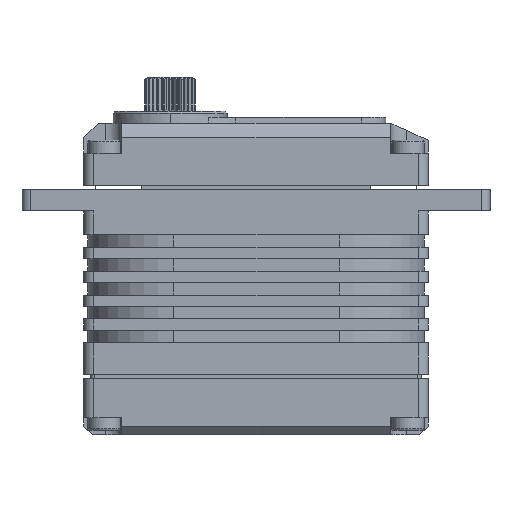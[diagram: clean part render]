
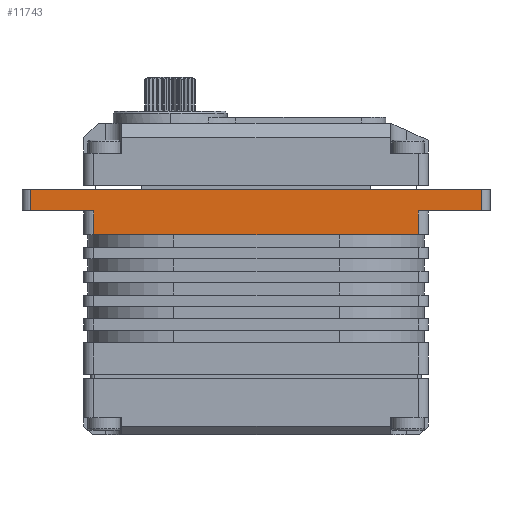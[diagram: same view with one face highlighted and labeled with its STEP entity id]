
A CAD part, front view. The second image highlights one B-rep face of the part: STEP entity #11743.
In plain terms, the highlighted planar face has unit normal (0, -1, 0).
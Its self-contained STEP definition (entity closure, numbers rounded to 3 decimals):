
#461 = EDGE_CURVE ( 'NONE', #27253, #23585, #17016, .T. ) ;
#1587 = VECTOR ( 'NONE', #9677, 1000. ) ;
#1687 = ORIENTED_EDGE ( 'NONE', *, *, #24361, .T. ) ;
#4114 = LINE ( 'NONE', #24383, #12506 ) ;
#4124 = ORIENTED_EDGE ( 'NONE', *, *, #8211, .T. ) ;
#4181 = LINE ( 'NONE', #10123, #26344 ) ;
#4681 = LINE ( 'NONE', #22576, #1587 ) ;
#5248 = CARTESIAN_POINT ( 'NONE',  ( -9.314, -17.158, 5.7 ) ) ;
#5252 = DIRECTION ( 'NONE',  ( 0., 0., -1. ) ) ;
#6075 = CARTESIAN_POINT ( 'NONE',  ( 36.236, -17.158, 8.5 ) ) ;
#6408 = ORIENTED_EDGE ( 'NONE', *, *, #12646, .T. ) ;
#7468 = VERTEX_POINT ( 'NONE', #9012 ) ;
#7659 = PLANE ( 'NONE',  #26599 ) ;
#7944 = VERTEX_POINT ( 'NONE', #9790 ) ;
#8106 = ORIENTED_EDGE ( 'NONE', *, *, #24947, .T. ) ;
#8211 = EDGE_CURVE ( 'NONE', #9892, #11613, #24564, .T. ) ;
#8218 = CARTESIAN_POINT ( 'NONE',  ( 36.236, -17.158, 11. ) ) ;
#9012 = CARTESIAN_POINT ( 'NONE',  ( -16.764, -17.158, 8.5 ) ) ;
#9677 = DIRECTION ( 'NONE',  ( 1., 0., 0. ) ) ;
#9684 = CARTESIAN_POINT ( 'NONE',  ( 36.236, -17.158, 5.7 ) ) ;
#9790 = CARTESIAN_POINT ( 'NONE',  ( -16.764, -17.158, 11. ) ) ;
#9892 = VERTEX_POINT ( 'NONE', #27029 ) ;
#10123 = CARTESIAN_POINT ( 'NONE',  ( 36.236, -17.158, 8.5 ) ) ;
#11141 = EDGE_CURVE ( 'NONE', #7944, #7468, #4114, .T. ) ;
#11511 = CARTESIAN_POINT ( 'NONE',  ( 36.236, -17.158, 8.5 ) ) ;
#11613 = VERTEX_POINT ( 'NONE', #11664 ) ;
#11664 = CARTESIAN_POINT ( 'NONE',  ( 28.786, -17.158, 8.5 ) ) ;
#11743 = ADVANCED_FACE ( 'NONE', ( #25638 ), #7659, .T. ) ;
#11854 = VERTEX_POINT ( 'NONE', #8218 ) ;
#12224 = ORIENTED_EDGE ( 'NONE', *, *, #11141, .T. ) ;
#12346 = LINE ( 'NONE', #21011, #14397 ) ;
#12506 = VECTOR ( 'NONE', #5252, 1000. ) ;
#12646 = EDGE_CURVE ( 'NONE', #23585, #9892, #4681, .T. ) ;
#13838 = DIRECTION ( 'NONE',  ( 0., 0., -1. ) ) ;
#14131 = DIRECTION ( 'NONE',  ( 0., 0., 1. ) ) ;
#14397 = VECTOR ( 'NONE', #23080, 1000. ) ;
#16949 = CARTESIAN_POINT ( 'NONE',  ( -9.314, -17.158, 8.5 ) ) ;
#17016 = LINE ( 'NONE', #5248, #21377 ) ;
#18676 = CARTESIAN_POINT ( 'NONE',  ( 36.236, -17.158, 5.7 ) ) ;
#19052 = VECTOR ( 'NONE', #14131, 1000. ) ;
#19563 = CARTESIAN_POINT ( 'NONE',  ( 28.786, -17.158, 5.7 ) ) ;
#19722 = ORIENTED_EDGE ( 'NONE', *, *, #461, .T. ) ;
#20939 = EDGE_CURVE ( 'NONE', #7468, #27253, #23566, .T. ) ;
#21011 = CARTESIAN_POINT ( 'NONE',  ( 36.236, -17.158, 11. ) ) ;
#21252 = ORIENTED_EDGE ( 'NONE', *, *, #20939, .T. ) ;
#21377 = VECTOR ( 'NONE', #13838, 1000. ) ;
#21824 = VERTEX_POINT ( 'NONE', #11511 ) ;
#22576 = CARTESIAN_POINT ( 'NONE',  ( 36.236, -17.158, 5.7 ) ) ;
#22680 = DIRECTION ( 'NONE',  ( 0., 0., -1. ) ) ;
#23080 = DIRECTION ( 'NONE',  ( -1., 0., 0. ) ) ;
#23239 = DIRECTION ( 'NONE',  ( 1., 0., 0. ) ) ;
#23566 = LINE ( 'NONE', #6075, #25582 ) ;
#23585 = VERTEX_POINT ( 'NONE', #24122 ) ;
#24122 = CARTESIAN_POINT ( 'NONE',  ( -9.314, -17.158, 5.7 ) ) ;
#24184 = EDGE_LOOP ( 'NONE', ( #1687, #25070, #12224, #21252, #19722, #6408, #4124, #8106 ) ) ;
#24361 = EDGE_CURVE ( 'NONE', #21824, #11854, #26746, .T. ) ;
#24383 = CARTESIAN_POINT ( 'NONE',  ( -16.764, -17.158, 5.7 ) ) ;
#24564 = LINE ( 'NONE', #19563, #25863 ) ;
#24826 = DIRECTION ( 'NONE',  ( 0., -1., 0. ) ) ;
#24947 = EDGE_CURVE ( 'NONE', #11613, #21824, #4181, .T. ) ;
#25070 = ORIENTED_EDGE ( 'NONE', *, *, #26597, .T. ) ;
#25363 = DIRECTION ( 'NONE',  ( 1., 0., 0. ) ) ;
#25582 = VECTOR ( 'NONE', #23239, 1000. ) ;
#25638 = FACE_OUTER_BOUND ( 'NONE', #24184, .T. ) ;
#25863 = VECTOR ( 'NONE', #27683, 1000. ) ;
#26344 = VECTOR ( 'NONE', #25363, 1000. ) ;
#26597 = EDGE_CURVE ( 'NONE', #11854, #7944, #12346, .T. ) ;
#26599 = AXIS2_PLACEMENT_3D ( 'NONE', #9684, #24826, #22680 ) ;
#26746 = LINE ( 'NONE', #18676, #19052 ) ;
#27029 = CARTESIAN_POINT ( 'NONE',  ( 28.786, -17.158, 5.7 ) ) ;
#27253 = VERTEX_POINT ( 'NONE', #16949 ) ;
#27683 = DIRECTION ( 'NONE',  ( 0., 0., 1. ) ) ;
